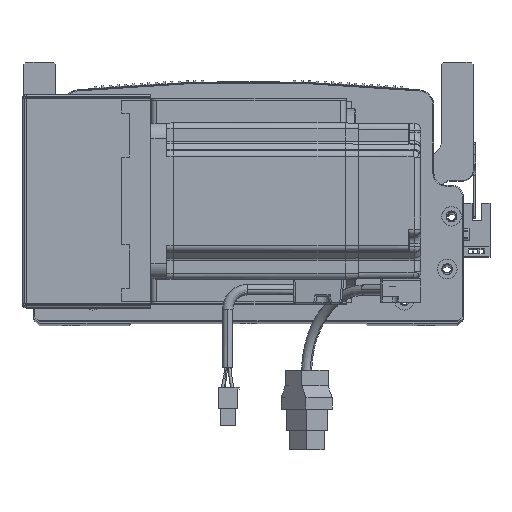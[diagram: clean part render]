
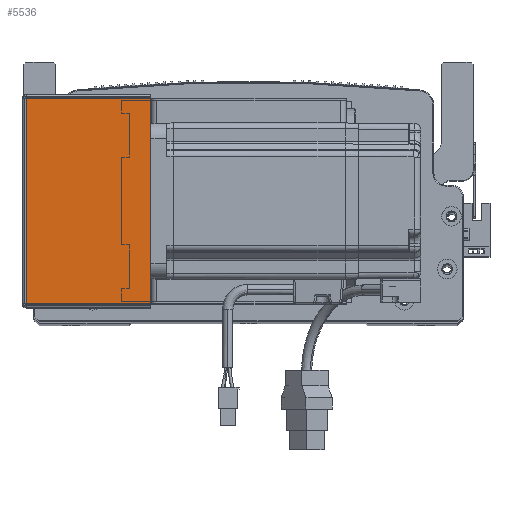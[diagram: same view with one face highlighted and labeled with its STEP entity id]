
A CAD part, top view. The second image highlights one B-rep face of the part: STEP entity #5536.
In plain terms, the highlighted planar face has unit normal (0, 0, 1) as drawn and (0, 0, -1) by its records, which use the part's own axes.
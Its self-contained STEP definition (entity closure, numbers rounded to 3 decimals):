
#4692 = VERTEX_POINT ( 'NONE', #71894 ) ;
#5536 = ADVANCED_FACE ( 'NONE', ( #71583 ), #14575, .F. ) ;
#11336 = CARTESIAN_POINT ( 'NONE',  ( 64.5, 0., -205.5 ) ) ;
#12694 = VERTEX_POINT ( 'NONE', #60320 ) ;
#13438 = EDGE_CURVE ( 'NONE', #12694, #33213, #18529, .T. ) ;
#14575 = PLANE ( 'NONE',  #36588 ) ;
#17075 = LINE ( 'NONE', #66285, #70916 ) ;
#18529 = LINE ( 'NONE', #67651, #27494 ) ;
#20161 = CARTESIAN_POINT ( 'NONE',  ( 0., 0.707, -205.5 ) ) ;
#21985 = EDGE_CURVE ( 'NONE', #12694, #4692, #17075, .T. ) ;
#26816 = VECTOR ( 'NONE', #81439, 1000. ) ;
#27494 = VECTOR ( 'NONE', #35107, 1000. ) ;
#33213 = VERTEX_POINT ( 'NONE', #37760 ) ;
#35107 = DIRECTION ( 'NONE',  ( 0., -1., 0. ) ) ;
#35695 = VERTEX_POINT ( 'NONE', #49563 ) ;
#36588 = AXIS2_PLACEMENT_3D ( 'NONE', #65447, #58532, #40425 ) ;
#36871 = EDGE_CURVE ( 'NONE', #33213, #35695, #75722, .T. ) ;
#37698 = ORIENTED_EDGE ( 'NONE', *, *, #36871, .F. ) ;
#37760 = CARTESIAN_POINT ( 'NONE',  ( 0.737, 0.707, -205.5 ) ) ;
#37810 = EDGE_CURVE ( 'NONE', #4692, #35695, #54670, .T. ) ;
#40425 = DIRECTION ( 'NONE',  ( 1., 0., 0. ) ) ;
#44957 = ORIENTED_EDGE ( 'NONE', *, *, #21985, .T. ) ;
#49563 = CARTESIAN_POINT ( 'NONE',  ( 64.5, 0.707, -205.5 ) ) ;
#54446 = ORIENTED_EDGE ( 'NONE', *, *, #13438, .F. ) ;
#54670 = LINE ( 'NONE', #11336, #26816 ) ;
#56567 = EDGE_LOOP ( 'NONE', ( #54446, #44957, #67660, #37698 ) ) ;
#58532 = DIRECTION ( 'NONE',  ( 0., 0., 1. ) ) ;
#60320 = CARTESIAN_POINT ( 'NONE',  ( 0.737, 105.293, -205.5 ) ) ;
#64639 = DIRECTION ( 'NONE',  ( 1., 0., 0. ) ) ;
#65447 = CARTESIAN_POINT ( 'NONE',  ( 0., 0., -205.5 ) ) ;
#66285 = CARTESIAN_POINT ( 'NONE',  ( 0., 105.293, -205.5 ) ) ;
#67651 = CARTESIAN_POINT ( 'NONE',  ( 0.737, 0., -205.5 ) ) ;
#67660 = ORIENTED_EDGE ( 'NONE', *, *, #37810, .T. ) ;
#70916 = VECTOR ( 'NONE', #78284, 1000. ) ;
#71583 = FACE_OUTER_BOUND ( 'NONE', #56567, .T. ) ;
#71894 = CARTESIAN_POINT ( 'NONE',  ( 64.5, 105.293, -205.5 ) ) ;
#75722 = LINE ( 'NONE', #20161, #79748 ) ;
#78284 = DIRECTION ( 'NONE',  ( 1., 0., 0. ) ) ;
#79748 = VECTOR ( 'NONE', #64639, 1000. ) ;
#81439 = DIRECTION ( 'NONE',  ( 0., -1., 0. ) ) ;
